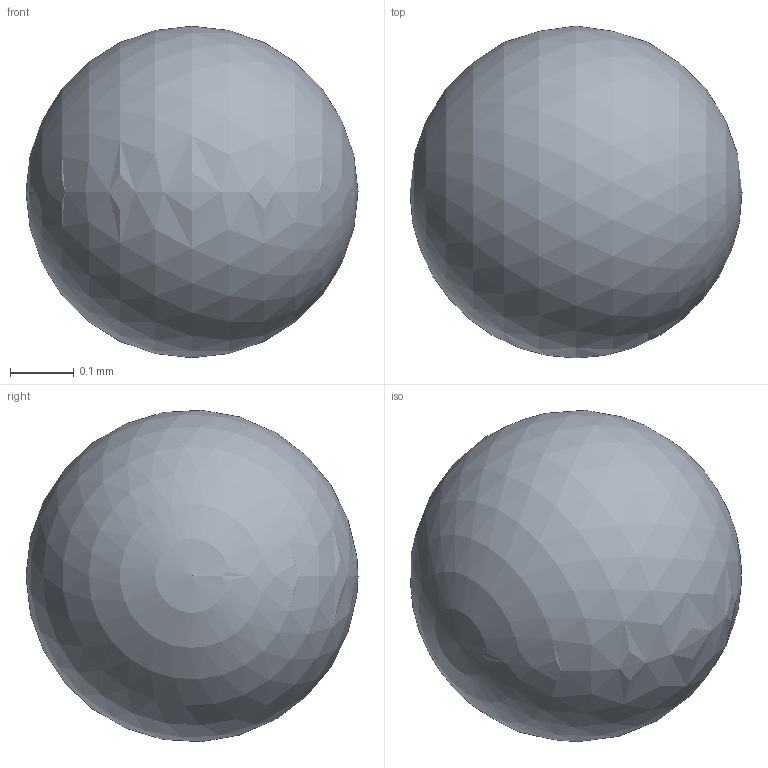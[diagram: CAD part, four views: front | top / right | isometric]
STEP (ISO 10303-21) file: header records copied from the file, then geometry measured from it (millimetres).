
FILE_DESCRIPTION(/* description */ ('STEP AP242 Edition 2','CAx-IF Rec.Pracs.---Representation and Presentation of Product Manufacturing Information (PMI)---4.0---2014-10-13','CAx-IF Rec.Pracs.---3D Tessellated Geometry---0.4---2014-09-14','2;1','CAx-IF Rec.Pracs.---User Defined Attributes---1.5---2016-08-15'),/* implementation_level */ '2;1');
FILE_NAME(/* name */ 'Final Build - tipball',/* time_stamp */ '2026-08-31T23:26:29Z',/* author */ (''),/* organization */ (''),/* preprocessor_version */ 'ST-DEVELOPER v20',/* originating_system */ 'ONSHAPE BY PTC INC, 1.220',/* authorisation */ ' ');
FILE_SCHEMA (('AP242_MANAGED_MODEL_BASED_3D_ENGINEERING_MIM_LF { 1 0 10303 442 3 1 4 }'));
Length unit declared in the file: metre
Products named in the file (1): tipball
Bounding box: 0.52 x 0.52 x 0.52 mm (x, y, z)
Volume: 0.1 mm3; surface area: 0.8 mm2
Topology: 1 solids, 1 shells, 1 faces, 3 edges, 2 vertices
Faces by surface type: sphere 1
Entity records: 40 total; most frequent: DIRECTION 4, CARTESIAN_POINT 3, AXIS2_PLACEMENT_3D 2, SHAPE_REPRESENTATION_RELATIONSHIP 1, ADVANCED_BREP_SHAPE_REPRESENTATION 1, VERTEX_POINT 1, VERTEX_LOOP 1, FACE_BOUND 1
